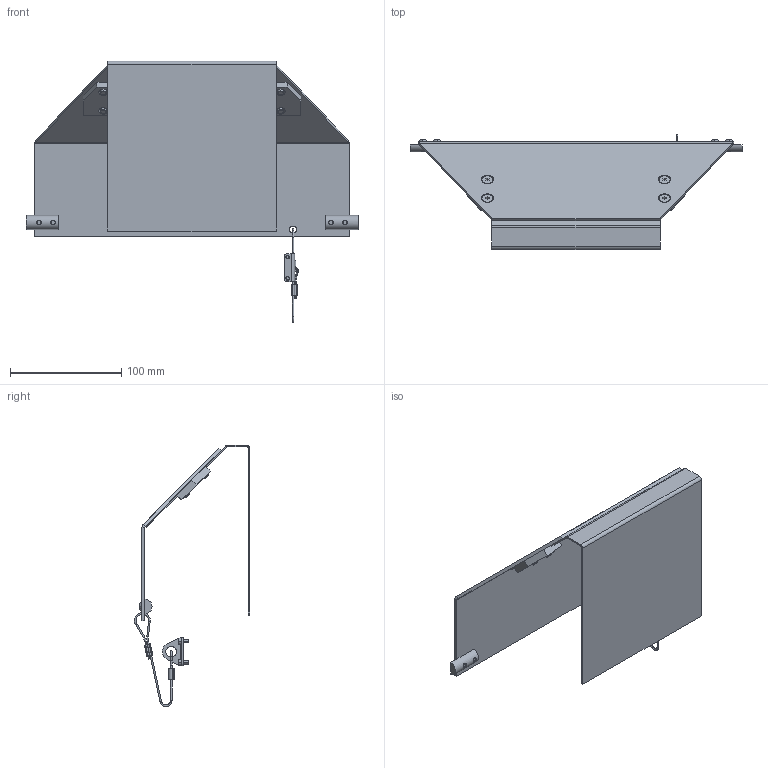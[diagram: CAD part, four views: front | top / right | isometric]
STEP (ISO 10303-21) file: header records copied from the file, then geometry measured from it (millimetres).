
FILE_DESCRIPTION((''),'2;1');
FILE_NAME('300991M_ASM','2019-05-09T',('james.horst'),(''),'PRO/ENGINEER BY PARAMETRIC TECHNOLOGY CORPORATION, 2012420','PRO/ENGINEER BY PARAMETRIC TECHNOLOGY CORPORATION, 2012420','');
FILE_SCHEMA(('CONFIG_CONTROL_DESIGN'));
Length unit declared in the file: inch
Products named in the file (11): 300841M; 300831M; 300774M; 300741M; 910408M; 930510M; 807-1086; 804-506; 807-1085; 920306M; 300991M_ASM
Assembly tree (20 placements, depth 2):
  300991M_ASM
    300841M
    300831M
    300774M  x2
    300741M  x2
    910408M  x4
    930510M  x4
    807-1086
    804-506
    807-1085  x2
    920306M  x2
Bounding box: 298.15 x 103.44 x 234.74 mm (x, y, z)
Volume: 187353.9 mm3; surface area: 189952 mm2
Topology: 20 solids, 28 shells, 400 faces, 944 edges, 596 vertices
Faces by surface type: plane 179, cylinder 141, cone 56, torus 14, bspline 10
Entity records: 7326 total; most frequent: CARTESIAN_POINT 1452, DIRECTION 1278, ORIENTED_EDGE 1080, EDGE_CURVE 548, AXIS2_PLACEMENT_3D 490, VERTEX_POINT 342, VECTOR 298, LINE 298
